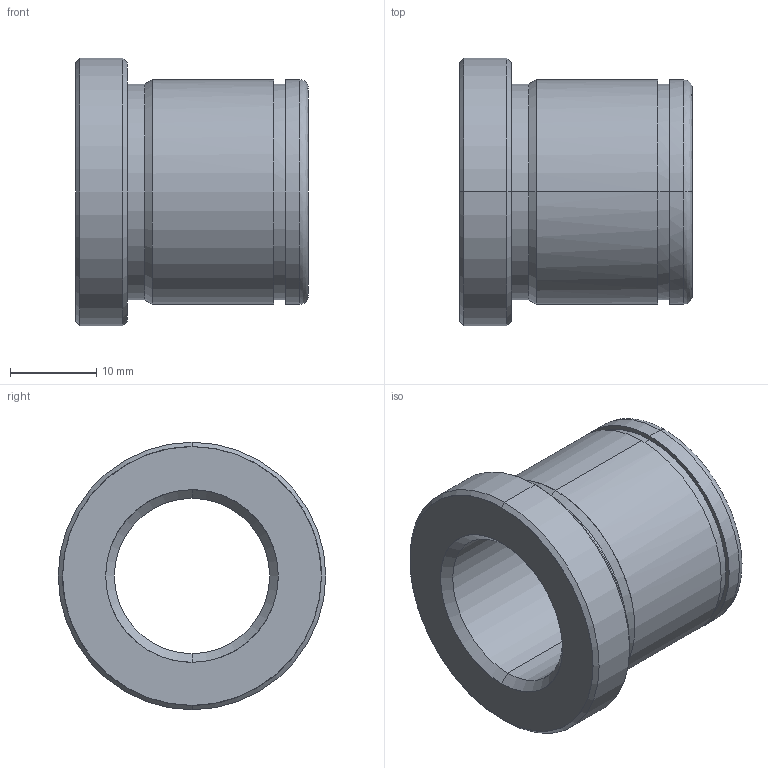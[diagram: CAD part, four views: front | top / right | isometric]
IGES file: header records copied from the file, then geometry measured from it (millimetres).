
Start section: START RECORD GO HERE.
Global section: file name: 553-18X27.igs; native system: DASSAULT SYSTEMES CATIA V5 R20 - www.3ds.com; preprocessor: CATIA Version 5 Release 20 ; author: Utente; organization: NB04-ASUS; date: 20210523.193144; units: millimetre
Bounding box: 27 x 31 x 31 mm (x, y, z)
Surface area: 4785.8 mm2 (no closed solid volume)
Topology: 0 solids, 0 shells, 29 faces, 184 edges, 184 vertices
Faces by surface type: revolution 24, plane 5
